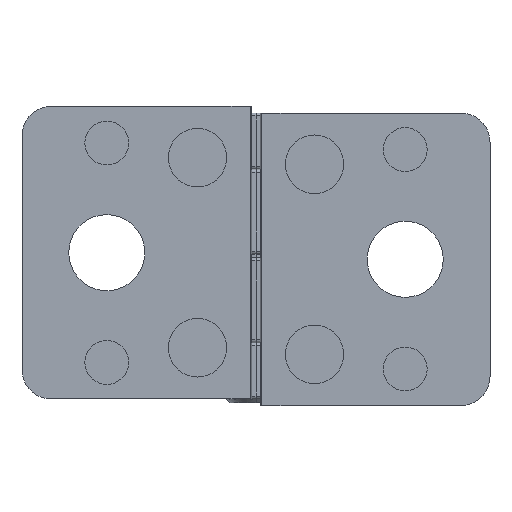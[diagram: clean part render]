
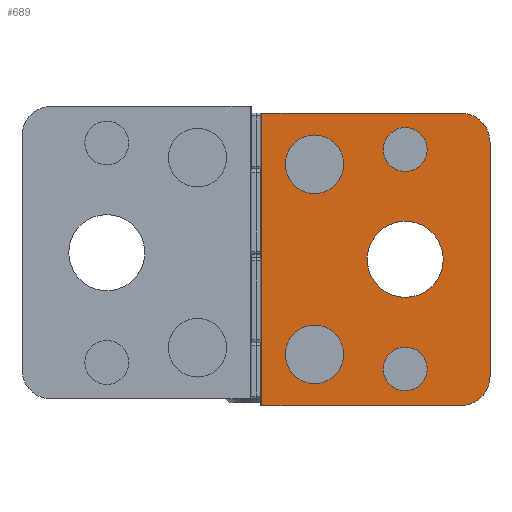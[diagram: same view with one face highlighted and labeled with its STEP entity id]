
A CAD part, front view. The second image highlights one B-rep face of the part: STEP entity #689.
In plain terms, the highlighted planar face has unit normal (0, -1, 0).
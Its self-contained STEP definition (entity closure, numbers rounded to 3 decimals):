
#689=ADVANCED_FACE('NONE',(#1407,#1408,#1409,#1410,#1411,#1412),#1413,.F.);
#1407=FACE_OUTER_BOUND('',#2398,.T.);
#1408=FACE_BOUND('',#2399,.T.);
#1409=FACE_BOUND('',#2400,.T.);
#1410=FACE_BOUND('',#2401,.T.);
#1411=FACE_BOUND('',#2402,.T.);
#1412=FACE_BOUND('',#2403,.T.);
#1413=PLANE('',#2404);
#2398=EDGE_LOOP('',(#4283,#4284,#4285,#4286,#4287,#4288));
#2399=EDGE_LOOP('',(#4289,#4290));
#2400=EDGE_LOOP('',(#4291,#4292));
#2401=EDGE_LOOP('',(#4293,#4294));
#2402=EDGE_LOOP('',(#4295,#4296));
#2403=EDGE_LOOP('',(#4297,#4298));
#2404=AXIS2_PLACEMENT_3D('',#4299,#4300,#4301);
#4283=ORIENTED_EDGE('',*,*,#5269,.F.);
#4284=ORIENTED_EDGE('',*,*,#5074,.T.);
#4285=ORIENTED_EDGE('',*,*,#4693,.F.);
#4286=ORIENTED_EDGE('',*,*,#5299,.T.);
#4287=ORIENTED_EDGE('',*,*,#5365,.T.);
#4288=ORIENTED_EDGE('',*,*,#5440,.T.);
#4289=ORIENTED_EDGE('',*,*,#5081,.F.);
#4290=ORIENTED_EDGE('',*,*,#4785,.F.);
#4291=ORIENTED_EDGE('',*,*,#5441,.F.);
#4292=ORIENTED_EDGE('',*,*,#5162,.F.);
#4293=ORIENTED_EDGE('',*,*,#4715,.F.);
#4294=ORIENTED_EDGE('',*,*,#5055,.F.);
#4295=ORIENTED_EDGE('',*,*,#5189,.F.);
#4296=ORIENTED_EDGE('',*,*,#4859,.F.);
#4297=ORIENTED_EDGE('',*,*,#5442,.T.);
#4298=ORIENTED_EDGE('',*,*,#5327,.T.);
#4299=CARTESIAN_POINT('',(0.405,-6.0,10.0));
#4300=DIRECTION('',(0.0,1.0,0.0));
#4301=DIRECTION('',(1.0,0.0,-0.0));
#4693=EDGE_CURVE('NONE',#5529,#5531,#5532,.T.);
#4715=EDGE_CURVE('NONE',#5570,#5566,#5572,.T.);
#4785=EDGE_CURVE('NONE',#5690,#5692,#5693,.T.);
#4859=EDGE_CURVE('NONE',#5817,#5819,#5820,.T.);
#5055=EDGE_CURVE('NONE',#5566,#5570,#6120,.T.);
#5074=EDGE_CURVE('NONE',#6141,#5531,#6143,.T.);
#5081=EDGE_CURVE('NONE',#5692,#5690,#6151,.T.);
#5162=EDGE_CURVE('NONE',#6269,#6271,#6272,.T.);
#5189=EDGE_CURVE('NONE',#5819,#5817,#6306,.T.);
#5269=EDGE_CURVE('NONE',#6141,#6408,#6412,.T.);
#5299=EDGE_CURVE('NONE',#5529,#6448,#6450,.T.);
#5327=EDGE_CURVE('NONE',#6484,#6485,#6486,.T.);
#5365=EDGE_CURVE('NONE',#6448,#6532,#6534,.T.);
#5440=EDGE_CURVE('NONE',#6532,#6408,#6615,.T.);
#5441=EDGE_CURVE('NONE',#6271,#6269,#6616,.T.);
#5442=EDGE_CURVE('NONE',#6485,#6484,#6617,.T.);
#5529=VERTEX_POINT('NONE',#6709);
#5531=VERTEX_POINT('NONE',#6712);
#5532=LINE('',#6713,#6714);
#5566=VERTEX_POINT('NONE',#6766);
#5570=VERTEX_POINT('NONE',#6771);
#5572=CIRCLE('',#6774,2.0);
#5690=VERTEX_POINT('NONE',#6953);
#5692=VERTEX_POINT('NONE',#6956);
#5693=CIRCLE('',#6957,1.5);
#5817=VERTEX_POINT('NONE',#7160);
#5819=VERTEX_POINT('NONE',#7163);
#5820=CIRCLE('',#7164,2.0);
#6120=CIRCLE('',#7613,2.0);
#6141=VERTEX_POINT('NONE',#7661);
#6143=CIRCLE('',#7664,2.0);
#6151=CIRCLE('',#7685,1.5);
#6269=VERTEX_POINT('NONE',#7899);
#6271=VERTEX_POINT('NONE',#7902);
#6272=CIRCLE('',#7903,1.5);
#6306=CIRCLE('',#7963,2.0);
#6408=VERTEX_POINT('NONE',#8131);
#6412=LINE('',#8137,#8138);
#6448=VERTEX_POINT('NONE',#8223);
#6450=LINE('',#8226,#8227);
#6484=VERTEX_POINT('NONE',#8303);
#6485=VERTEX_POINT('NONE',#8304);
#6486=CIRCLE('',#8305,2.6);
#6532=VERTEX_POINT('NONE',#8386);
#6534=LINE('',#8389,#8390);
#6615=CIRCLE('',#8533,2.0);
#6616=CIRCLE('',#8534,1.5);
#6617=CIRCLE('',#8535,2.6);
#6709=CARTESIAN_POINT('',(0.405,-6.0,10.0));
#6712=CARTESIAN_POINT('',(14.0,-6.0,10.0));
#6713=CARTESIAN_POINT('',(0.405,-6.0,10.0));
#6714=VECTOR('',#8642,1000.0);
#6766=CARTESIAN_POINT('',(4.0,-6.0,-4.5));
#6771=CARTESIAN_POINT('',(4.0,-6.0,-8.5));
#6774=AXIS2_PLACEMENT_3D('',#8673,#8674,#8675);
#6953=CARTESIAN_POINT('',(10.2,-6.0,9.0));
#6956=CARTESIAN_POINT('',(10.2,-6.0,6.0));
#6957=AXIS2_PLACEMENT_3D('',#8771,#8772,#8773);
#7160=CARTESIAN_POINT('',(4.0,-6.0,8.5));
#7163=CARTESIAN_POINT('',(4.0,-6.0,4.5));
#7164=AXIS2_PLACEMENT_3D('',#8870,#8871,#8872);
#7613=AXIS2_PLACEMENT_3D('',#9150,#9151,#9152);
#7661=CARTESIAN_POINT('',(16.0,-6.0,8.0));
#7664=AXIS2_PLACEMENT_3D('',#9163,#9164,#9165);
#7685=AXIS2_PLACEMENT_3D('',#9169,#9170,#9171);
#7899=CARTESIAN_POINT('',(10.2,-6.0,-6.0));
#7902=CARTESIAN_POINT('',(10.2,-6.0,-9.0));
#7903=AXIS2_PLACEMENT_3D('',#9252,#9253,#9254);
#7963=AXIS2_PLACEMENT_3D('',#9281,#9282,#9283);
#8131=CARTESIAN_POINT('',(16.0,-6.0,-8.0));
#8137=CARTESIAN_POINT('',(16.0,-6.0,10.0));
#8138=VECTOR('',#9373,1000.0);
#8223=CARTESIAN_POINT('',(0.405,-6.0,-10.0));
#8226=CARTESIAN_POINT('',(0.405,-6.0,10.0));
#8227=VECTOR('',#9398,1000.0);
#8303=CARTESIAN_POINT('',(10.2,-6.0,-2.6));
#8304=CARTESIAN_POINT('',(10.2,-6.0,2.6));
#8305=AXIS2_PLACEMENT_3D('',#9411,#9412,#9413);
#8386=CARTESIAN_POINT('',(14.0,-6.0,-10.0));
#8389=CARTESIAN_POINT('',(0.405,-6.0,-10.0));
#8390=VECTOR('',#9451,1000.0);
#8533=AXIS2_PLACEMENT_3D('',#9517,#9518,#9519);
#8534=AXIS2_PLACEMENT_3D('',#9520,#9521,#9522);
#8535=AXIS2_PLACEMENT_3D('',#9523,#9524,#9525);
#8642=DIRECTION('',(1.0,0.0,0.0));
#8673=CARTESIAN_POINT('',(4.0,-6.0,-6.5));
#8674=DIRECTION('',(0.0,-1.0,0.0));
#8675=DIRECTION('',(0.0,0.0,1.0));
#8771=CARTESIAN_POINT('',(10.2,-6.0,7.5));
#8772=DIRECTION('',(0.0,-1.0,0.0));
#8773=DIRECTION('',(0.0,0.0,-1.0));
#8870=CARTESIAN_POINT('',(4.0,-6.0,6.5));
#8871=DIRECTION('',(0.0,-1.0,0.0));
#8872=DIRECTION('',(0.0,0.0,-1.0));
#9150=CARTESIAN_POINT('',(4.0,-6.0,-6.5));
#9151=DIRECTION('',(0.0,-1.0,0.0));
#9152=DIRECTION('',(0.0,0.0,1.0));
#9163=CARTESIAN_POINT('',(14.0,-6.0,8.0));
#9164=DIRECTION('',(0.0,-1.0,0.0));
#9165=DIRECTION('',(0.0,0.0,1.0));
#9169=CARTESIAN_POINT('',(10.2,-6.0,7.5));
#9170=DIRECTION('',(0.0,-1.0,0.0));
#9171=DIRECTION('',(0.0,0.0,-1.0));
#9252=CARTESIAN_POINT('',(10.2,-6.0,-7.5));
#9253=DIRECTION('',(0.0,-1.0,0.0));
#9254=DIRECTION('',(0.0,0.0,-1.0));
#9281=CARTESIAN_POINT('',(4.0,-6.0,6.5));
#9282=DIRECTION('',(0.0,-1.0,0.0));
#9283=DIRECTION('',(0.0,0.0,-1.0));
#9373=DIRECTION('',(-0.0,-0.0,-1.0));
#9398=DIRECTION('',(-0.0,-0.0,-1.0));
#9411=CARTESIAN_POINT('',(10.2,-6.0,0.0));
#9412=DIRECTION('',(-0.0,1.0,0.0));
#9413=DIRECTION('',(0.0,0.0,1.0));
#9451=DIRECTION('',(1.0,0.0,0.0));
#9517=CARTESIAN_POINT('',(14.0,-6.0,-8.0));
#9518=DIRECTION('',(0.0,-1.0,0.0));
#9519=DIRECTION('',(0.0,0.0,1.0));
#9520=CARTESIAN_POINT('',(10.2,-6.0,-7.5));
#9521=DIRECTION('',(0.0,-1.0,0.0));
#9522=DIRECTION('',(0.0,0.0,-1.0));
#9523=CARTESIAN_POINT('',(10.2,-6.0,0.0));
#9524=DIRECTION('',(-0.0,1.0,0.0));
#9525=DIRECTION('',(0.0,0.0,1.0));
